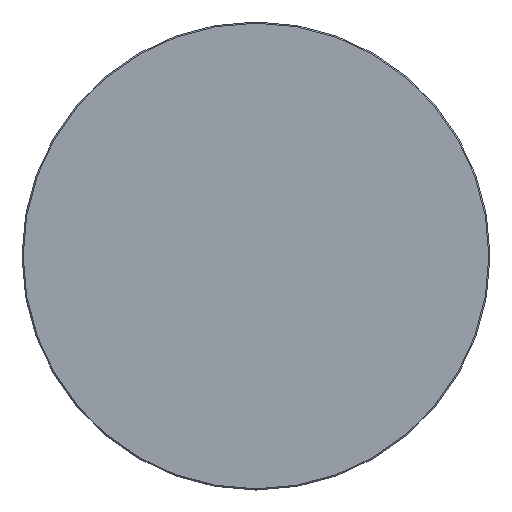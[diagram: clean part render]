
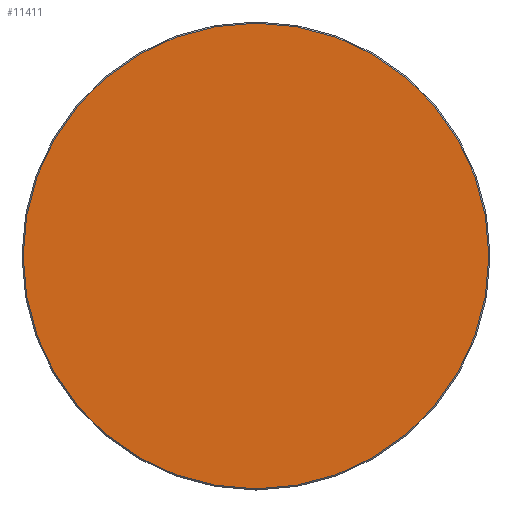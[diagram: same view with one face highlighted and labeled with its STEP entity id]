
A CAD part, top view. The second image highlights one B-rep face of the part: STEP entity #11411.
In plain terms, the highlighted planar face has unit normal (0, 0, 1).
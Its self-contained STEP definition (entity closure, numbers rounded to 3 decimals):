
#11336=CARTESIAN_POINT('',(0.,0.,20.));
#11337=DIRECTION('',(1.,0.,0.));
#11338=DIRECTION('',(0.,0.,1.));
#11339=AXIS2_PLACEMENT_3D('',#11336,#11338,#11337);
#11340=PLANE('',#11339);
#11341=CARTESIAN_POINT('',(-0.5,-298.5,20.));
#11342=VERTEX_POINT('',#11341);
#11343=CARTESIAN_POINT('',(0.5,-298.5,20.));
#11344=VERTEX_POINT('',#11343);
#11345=CARTESIAN_POINT('',(-0.5,-298.5,20.));
#11346=DIRECTION('',(1.,0.,0.));
#11347=VECTOR('',#11346,1.);
#11348=LINE('',#11345,#11347);
#11349=EDGE_CURVE('',#11342,#11344,#11348,.T.);
#11350=ORIENTED_EDGE('E105',*,*,#11349,.T.);
#11351=CARTESIAN_POINT('',(298.5,-0.5,20.));
#11352=VERTEX_POINT('',#11351);
#11353=CARTESIAN_POINT('',(0.5,-0.5,20.));
#11354=DIRECTION('',(0.,-1.,0.));
#11355=DIRECTION('',(0.,0.,1.));
#11356=AXIS2_PLACEMENT_3D('',#11353,#11355,#11354);
#11357=CIRCLE('',#11356,298.);
#11358=EDGE_CURVE('',#11344,#11352,#11357,.T.);
#11359=ORIENTED_EDGE('E107',*,*,#11358,.T.);
#11360=CARTESIAN_POINT('',(298.5,0.5,20.));
#11361=VERTEX_POINT('',#11360);
#11362=CARTESIAN_POINT('',(298.5,-0.5,20.));
#11363=DIRECTION('',(0.,1.,0.));
#11364=VECTOR('',#11363,1.);
#11365=LINE('',#11362,#11364);
#11366=EDGE_CURVE('',#11352,#11361,#11365,.T.);
#11367=ORIENTED_EDGE('E109',*,*,#11366,.T.);
#11368=CARTESIAN_POINT('',(0.5,298.5,20.));
#11369=VERTEX_POINT('',#11368);
#11370=CARTESIAN_POINT('',(0.5,0.5,20.));
#11371=DIRECTION('',(1.,0.,0.));
#11372=DIRECTION('',(0.,0.,1.));
#11373=AXIS2_PLACEMENT_3D('',#11370,#11372,#11371);
#11374=CIRCLE('',#11373,298.);
#11375=EDGE_CURVE('',#11361,#11369,#11374,.T.);
#11376=ORIENTED_EDGE('E111',*,*,#11375,.T.);
#11377=CARTESIAN_POINT('',(-0.5,298.5,20.));
#11378=VERTEX_POINT('',#11377);
#11379=CARTESIAN_POINT('',(0.5,298.5,20.));
#11380=DIRECTION('',(-1.,0.,0.));
#11381=VECTOR('',#11380,1.);
#11382=LINE('',#11379,#11381);
#11383=EDGE_CURVE('',#11369,#11378,#11382,.T.);
#11384=ORIENTED_EDGE('E113',*,*,#11383,.T.);
#11385=CARTESIAN_POINT('',(-298.5,0.5,20.));
#11386=VERTEX_POINT('',#11385);
#11387=CARTESIAN_POINT('',(-0.5,0.5,20.));
#11388=DIRECTION('',(0.,1.,0.));
#11389=DIRECTION('',(0.,0.,1.));
#11390=AXIS2_PLACEMENT_3D('',#11387,#11389,#11388);
#11391=CIRCLE('',#11390,298.);
#11392=EDGE_CURVE('',#11378,#11386,#11391,.T.);
#11393=ORIENTED_EDGE('E115',*,*,#11392,.T.);
#11394=CARTESIAN_POINT('',(-298.5,-0.5,20.));
#11395=VERTEX_POINT('',#11394);
#11396=CARTESIAN_POINT('',(-298.5,0.5,20.));
#11397=DIRECTION('',(0.,-1.,0.));
#11398=VECTOR('',#11397,1.);
#11399=LINE('',#11396,#11398);
#11400=EDGE_CURVE('',#11386,#11395,#11399,.T.);
#11401=ORIENTED_EDGE('E117',*,*,#11400,.T.);
#11402=CARTESIAN_POINT('',(-0.5,-0.5,20.));
#11403=DIRECTION('',(-1.,0.,0.));
#11404=DIRECTION('',(-0.,0.,1.));
#11405=AXIS2_PLACEMENT_3D('',#11402,#11404,#11403);
#11406=CIRCLE('',#11405,298.);
#11407=EDGE_CURVE('',#11395,#11342,#11406,.T.);
#11408=ORIENTED_EDGE('E119',*,*,#11407,.T.);
#11409=EDGE_LOOP('',(#11350,#11359,#11367,#11376,#11384,#11393,#11401,#11408));
#11410=FACE_OUTER_BOUND('',#11409,.T.);
#11411=ADVANCED_FACE('F2',(#11410),#11340,.T.);
